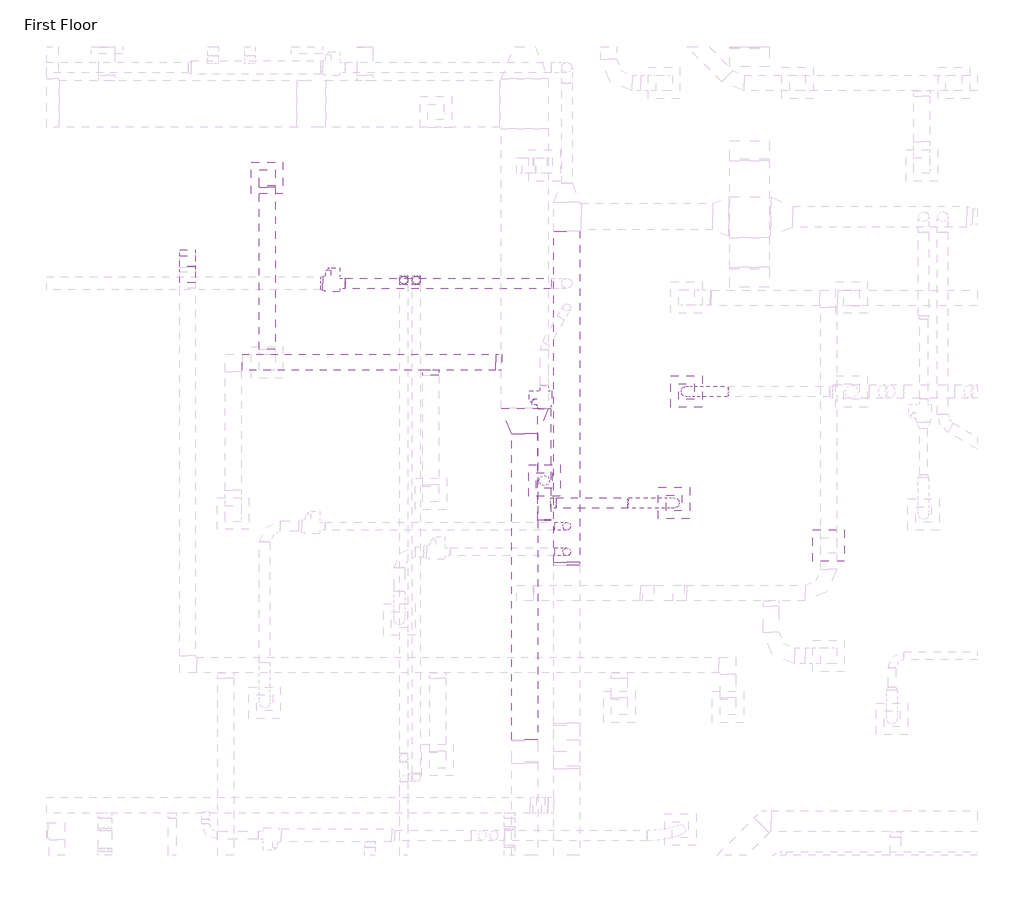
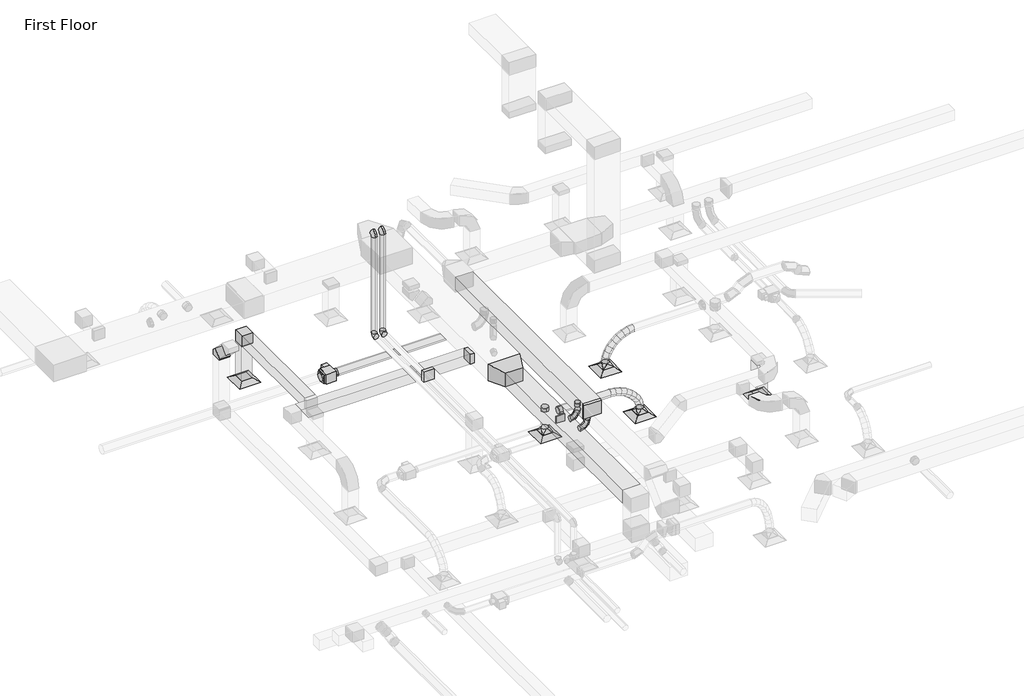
# One storey, part 11 of 61: 17 duct fittings, 15 duct segments, 5 air terminals, 4 pipe fittings, 2 pipe segments, 2 proxies.
"""IFC4 building model written with IfcOpenShell, lengths in millimetres."""

from ifc_helpers import new_model, si_unit, point, frame, frame_2d, origin, place, context, project, spatial, polyline, circle_curve, ellipse_curve, trimmed, segment, composite_curve, outline, extrude, transform, mapped, element, save
from ifc_brep_helpers import plane_surface, cylinder_surface, advanced_brep
from components import m_exhaust_grill_er_600_x_600_face_300_x_300_connection_ff221211, m_vav_unit_single_duct_150_mm_ffdab17b, m_vav_unit_single_duct_200_mm_f9143229, m_rectangular_elbow_mitered_standard_b81e202c, m_rectangular_elbow_mitered_standard_8eee5933, m_rectangular_endcap_standard_ecd4e432, m_rectangular_takeoff_standard_b44bfa45, m_rectangular_transition_angle_45_degree_2558483f, m_rectangular_transition_angle_45_degree_58188504, m_rectangular_to_round_transition_angle_45_degree_60daae35, m_rectangular_to_round_transition_angle_45_degree_2367f443, m_round_elbow_1_5_d_b75b4c16, m_round_elbow_1_5_d_9f19952d, m_round_takeoff_standard_2721f8a4, m_round_takeoff_standard_45336e8a, m_round_takeoff_standard_5a05d64d, m_elbow_generic_standard_1652de39

model = new_model("IFC4")

# Units and contexts
model_context = context("Model", 3, world=origin())
ifc_project = project(units=[si_unit("LENGTHUNIT", "METRE", prefix="MILLI")], contexts=[model_context])

# Site, building, storey
site = spatial("IfcSite", under=ifc_project)
building = spatial("IfcBuilding", under=site)
storey = spatial("IfcBuildingStorey", under=building, Name="First Floor", Elevation=0.0)

# Air terminals
placement = place(None, origin())
m_exhaust_grill_er_600_x_600_face_300_x_300_connection_shape = m_exhaust_grill_er_600_x_600_face_300_x_300_connection_ff221211(model_context)
element("IfcAirTerminal", 1, ObjectType="M_Return Register : RR-600 x 600 Face 300 x 300 Connection", at=placement, inside=storey, context=model_context, shape_type="MappedRepresentation", body=[
    mapped(m_exhaust_grill_er_600_x_600_face_300_x_300_connection_shape, transform((-34075.733002, 16812.4492601, 2680.0), x_axis=(1.0, 0.0, 0.0), y_axis=(0.0, 1.0, 0.0), z_axis=(0.0, 0.0, 1.0))),
])
element("IfcAirTerminal", 2, ObjectType="M_Return Register : RR-600 x 600 Face 300 x 300 Connection", at=placement, inside=storey, context=model_context, shape_type="MappedRepresentation", body=[
    mapped(m_exhaust_grill_er_600_x_600_face_300_x_300_connection_shape, transform((-44776.2515849, 23819.5400233, 2680.0), x_axis=(1.0, 0.0, 0.0), y_axis=(0.0, 1.0, 0.0), z_axis=(0.0, 0.0, 1.0))),
])
element("IfcAirTerminal", 3, ObjectType="M_Supply Diffuser : SD-600 x 600 Face 300 x 300 Connection", at=placement, inside=storey, context=model_context, shape_type="MappedRepresentation", body=[
    mapped(m_exhaust_grill_er_600_x_600_face_300_x_300_connection_shape, transform((-36787.6727054, 19747.3013059, 2680.0), x_axis=(1.0, 0.0, 0.0), y_axis=(0.0, 1.0, 0.0), z_axis=(0.0, 0.0, 1.0))),
])
element("IfcAirTerminal", 4, ObjectType="M_Supply Diffuser : SD-600 x 600 Face 300 x 300 Connection", at=placement, inside=storey, context=model_context, shape_type="MappedRepresentation", body=[
    mapped(m_exhaust_grill_er_600_x_600_face_300_x_300_connection_shape, transform((-39495.2297098, 18050.338685, 2680.0), x_axis=(1.0, 0.0, 0.0), y_axis=(0.0, 1.0, 0.0), z_axis=(0.0, 0.0, 1.0))),
])
element("IfcAirTerminal", 5, ObjectType="M_Supply Diffuser : SD-600 x 600 Face 300 x 300 Connection", at=placement, inside=storey, context=model_context, shape_type="MappedRepresentation", body=[
    mapped(m_exhaust_grill_er_600_x_600_face_300_x_300_connection_shape, transform((-37023.6462171, 17624.6197406, 2680.0), x_axis=(1.0, 0.0, 0.0), y_axis=(0.0, 1.0, 0.0), z_axis=(0.0, 0.0, 1.0))),
])

# Proxies
m_vav_unit_single_duct_150_mm_shape = m_vav_unit_single_duct_150_mm_ffdab17b(model_context)
element("IfcBuildingElementProxy", 6, Name="M_VAV Unit - Single Duct : 150 mm", ObjectType="M_VAV Unit - Single Duct : 150 mm", at=placement, inside=storey, context=model_context, shape_type="MappedRepresentation", body=[
    mapped(m_vav_unit_single_duct_150_mm_shape, transform((-39495.2297098, 19765.5731757, 3499.975), x_axis=(0.0, -1.0000000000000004, 0.0), y_axis=(1.0000000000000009, 0.0, 0.0), z_axis=(0.0, 0.0, 1.0000000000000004))),
])
m_vav_unit_single_duct_200_mm_shape = m_vav_unit_single_duct_200_mm_f9143229(model_context)
element("IfcBuildingElementProxy", 7, Name="M_VAV Unit - Single Duct : 200 mm", ObjectType="M_VAV Unit - Single Duct : 200 mm", at=placement, inside=storey, context=model_context, shape_type="MappedRepresentation", body=[
    mapped(m_vav_unit_single_duct_200_mm_shape, transform((-43391.9384072, 21808.4183799, 3474.975), x_axis=(-1.0000000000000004, 0.0, 0.0), y_axis=(0.0, -1.0000000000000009, 0.0), z_axis=(0.0, 0.0, 1.0000000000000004))),
])

# Duct fittings
m_rectangular_elbow_mitered_standard_shape = m_rectangular_elbow_mitered_standard_b81e202c(model_context)
element("IfcDuctFitting", 8, ObjectType="M_Rectangular Elbow - Mitered : Standard", at=placement, inside=storey, context=model_context, shape_type="MappedRepresentation", body=[
    mapped(m_rectangular_elbow_mitered_standard_shape, transform((-46297.5612377, 22294.3952, 4953.8777982), x_axis=(0.0, 0.0, 1.0), y_axis=(0.0, -1.0, 0.0), z_axis=(1.0, 0.0, 0.0))),
])
m_rectangular_elbow_mitered_standard_2_shape = m_rectangular_elbow_mitered_standard_8eee5933(model_context)
element("IfcDuctFitting", 9, ObjectType="M_Rectangular Elbow - Mitered : Standard", at=placement, inside=storey, context=model_context, shape_type="MappedRepresentation", body=[
    mapped(m_rectangular_elbow_mitered_standard_2_shape, transform((-44776.2515849, 23819.5400233, 4000.0), x_axis=(0.0, 0.0, 1.0), y_axis=(0.0, -1.0, 0.0), z_axis=(1.0, 0.0, 0.0))),
])
m_rectangular_endcap_standard_shape = m_rectangular_endcap_standard_ecd4e432(model_context)
element("IfcDuctFitting", 10, ObjectType="M_Rectangular Endcap : Standard", at=placement, inside=storey, context=model_context, shape_type="MappedRepresentation", body=[
    mapped(m_rectangular_endcap_standard_shape, transform((-39495.2297098, 17307.538685, 3619.025), x_axis=(0.0, -1.0, 0.0), y_axis=(1.0, 0.0, 0.0), z_axis=(0.0, 0.0, 1.0))),
])
m_rectangular_takeoff_standard_shape = m_rectangular_takeoff_standard_b44bfa45(model_context)
element("IfcDuctFitting", 11, ObjectType="M_Rectangular Takeoff : Standard", at=placement, inside=storey, context=model_context, shape_type="MappedRepresentation", body=[
    mapped(m_rectangular_takeoff_standard_shape, transform((-41659.8030018, 20153.2476716, 4000.0), x_axis=(0.0, -1.0, 0.0), y_axis=(-1.0, 0.0, 0.0), z_axis=(0.0, 0.0, -1.0))),
])
element("IfcDuctFitting", 12, ObjectType="M_Rectangular Takeoff : Standard", at=placement, inside=storey, context=model_context, shape_type="MappedRepresentation", body=[
    mapped(m_rectangular_takeoff_standard_shape, transform((-40317.4195561, 20303.2476716, 4000.0), x_axis=(-1.0, 0.0, 0.0), y_axis=(0.0, 1.0, 0.0), z_axis=(0.0, 0.0, -1.0))),
])
m_rectangular_transition_angle_45_degree_shape = m_rectangular_transition_angle_45_degree_2558483f(model_context)
element("IfcDuctFitting", 13, ObjectType="M_Rectangular Transition - Angle : 45 Degree", at=placement, inside=storey, context=model_context, shape_type="MappedRepresentation", body=[
    mapped(m_rectangular_transition_angle_45_degree_shape, transform((-39067.4195561, 16494.8678176, 4259.5), x_axis=(0.0, -1.0, 0.0), y_axis=(1.0, 0.0, 0.0), z_axis=(0.0, 0.0, 1.0))),
])
m_rectangular_transition_angle_45_degree_2_shape = m_rectangular_transition_angle_45_degree_58188504(model_context)
element("IfcDuctFitting", 14, ObjectType="M_Rectangular Transition - Angle : 45 Degree", at=placement, inside=storey, context=model_context, shape_type="MappedRepresentation", body=[
    mapped(m_rectangular_transition_angle_45_degree_2_shape, transform((-39867.4195561, 19428.8199771, 4000.0), x_axis=(0.0, -1.0, 0.0), y_axis=(1.0, 0.0, 0.0), z_axis=(0.0, 0.0, 1.0))),
])
m_rectangular_to_round_transition_angle_45_degree_shape = m_rectangular_to_round_transition_angle_45_degree_60daae35(model_context)
element("IfcDuctFitting", 15, ObjectType="M_Rectangular to Round Transition - Angle : 45 Degree", at=placement, inside=storey, context=model_context, shape_type="MappedRepresentation", body=[
    mapped(m_rectangular_to_round_transition_angle_45_degree_shape, transform((-36787.6727054, 19747.3013059, 2781.6), x_axis=(0.0, 0.0, 1.0), y_axis=(1.0, 0.0, 0.0), z_axis=(0.0, 1.0, 0.0))),
])
element("IfcDuctFitting", 16, ObjectType="M_Rectangular to Round Transition - Angle : 45 Degree", at=placement, inside=storey, context=model_context, shape_type="MappedRepresentation", body=[
    mapped(m_rectangular_to_round_transition_angle_45_degree_shape, transform((-37023.6462171, 17624.6197406, 2781.6), x_axis=(0.0, 0.0, 1.0), y_axis=(1.0, 0.0, 0.0), z_axis=(0.0, 1.0, 0.0))),
])
element("IfcDuctFitting", 17, ObjectType="M_Rectangular to Round Transition - Angle : 45 Degree", at=placement, inside=storey, context=model_context, shape_type="MappedRepresentation", body=[
    mapped(m_rectangular_to_round_transition_angle_45_degree_shape, transform((-39495.2297098, 18050.338685, 2781.6), x_axis=(0.0, 0.0, 1.0), y_axis=(-1.0, 0.0, 0.0), z_axis=(0.0, -1.0, 0.0))),
])
m_rectangular_to_round_transition_angle_45_degree_2_shape = m_rectangular_to_round_transition_angle_45_degree_2367f443(model_context)
element("IfcDuctFitting", 18, ObjectType="M_Rectangular to Round Transition - Angle : 45 Degree", at=placement, inside=storey, context=model_context, shape_type="MappedRepresentation", body=[
    mapped(m_rectangular_to_round_transition_angle_45_degree_2_shape, transform((-43721.7384072, 21808.4183799, 3619.025), x_axis=(-1.0, 0.0, 0.0), y_axis=(0.0, -1.0, 0.0), z_axis=(0.0, 0.0, 1.0))),
])
m_round_elbow_1_5_d_shape = m_round_elbow_1_5_d_b75b4c16(model_context)
element("IfcDuctFitting", 19, ObjectType="M_Round Elbow : 1.5 D", at=placement, inside=storey, context=model_context, shape_type="MappedRepresentation", body=[
    mapped(m_round_elbow_1_5_d_shape, transform((-39067.4195561, 16691.8506721, 3609.5), x_axis=(0.0, 0.0, -1.0), y_axis=(-1.0, 0.0, 0.0), z_axis=(0.0, 1.0, 0.0))),
])
m_round_elbow_1_5_d_2_shape = m_round_elbow_1_5_d_9f19952d(model_context)
element("IfcDuctFitting", 20, ObjectType="M_Round Elbow : 1.5 D", at=placement, inside=storey, context=model_context, shape_type="MappedRepresentation", body=[
    mapped(m_round_elbow_1_5_d_2_shape, transform((-39067.4195561, 17179.1760628, 3609.5), x_axis=(0.0, 0.0, -1.0), y_axis=(-1.0, 0.0, 0.0), z_axis=(0.0, 1.0, 0.0))),
])
m_round_takeoff_standard_shape = m_round_takeoff_standard_2721f8a4(model_context)
element("IfcDuctFitting", 21, ObjectType="M_Round Takeoff : Standard", at=placement, inside=storey, context=model_context, shape_type="MappedRepresentation", body=[
    mapped(m_round_takeoff_standard_shape, transform((-39067.4195561, 16691.8506721, 4034.5), x_axis=(0.0, 0.0, -1.0), y_axis=(0.0, -1.0, 0.0), z_axis=(-1.0, 0.0, 0.0))),
])
element("IfcDuctFitting", 22, ObjectType="M_Round Takeoff : Standard", at=placement, inside=storey, context=model_context, shape_type="MappedRepresentation", body=[
    mapped(m_round_takeoff_standard_shape, transform((-39067.4195561, 17179.1760628, 4034.5), x_axis=(0.0, 0.0, -1.0), y_axis=(0.0, -1.0, 0.0), z_axis=(-1.0, 0.0, 0.0))),
])
m_round_takeoff_standard_2_shape = m_round_takeoff_standard_45336e8a(model_context)
element("IfcDuctFitting", 23, ObjectType="M_Round Takeoff : Standard", at=placement, inside=storey, context=model_context, shape_type="MappedRepresentation", body=[
    mapped(m_round_takeoff_standard_2_shape, transform((-39370.2297098, 17624.6197406, 3619.1), x_axis=(1.0, 0.0, 0.0), y_axis=(0.0, -1.0, 0.0), z_axis=(0.0, 0.0, -1.0))),
])
m_round_takeoff_standard_3_shape = m_round_takeoff_standard_5a05d64d(model_context)
element("IfcDuctFitting", 24, ObjectType="M_Round Takeoff : Standard", at=placement, inside=storey, context=model_context, shape_type="MappedRepresentation", body=[
    mapped(m_round_takeoff_standard_3_shape, transform((-39495.2297098, 18050.338685, 3519.1), x_axis=(0.0, 0.0, -1.0), y_axis=(1.0, 0.0, 0.0), z_axis=(0.0, -1.0, 0.0))),
])

# Duct segments
element("IfcDuctSegment", 25, ObjectType="Flex - Round", at=placement, inside=storey, context=model_context, shape_type="AdvancedBrep", body=[
    advanced_brep(
    [(-35997.5612377, 19647.3013059, 3644.1), (-35985.2655438, 19747.3013059, 3544.8587993), (-35997.5612377, 19847.3013059, 3644.1), (-36009.8569316, 19747.3013059, 3743.3412007), (-36135.2301962, 19647.3013059, 3627.0432196), (-36112.4082346, 19747.3013059, 3529.1061926), (-36135.2301962, 19847.3013059, 3627.0432196), (-36158.0521577, 19747.3013059, 3724.9802465), (-36787.6727054, 19647.3013059, 2902.3106781), (-36886.6917651, 19747.3013059, 2916.283001), (-36787.6727054, 19847.3013059, 2902.3106781), (-36688.6536457, 19747.3013059, 2888.3383552), (-36273.419372, 19647.3013059, 3578.9964909), (-36232.2699833, 19747.3013059, 3487.4316919), (-36273.419372, 19847.3013059, 3578.9964909), (-36314.5687608, 19747.3013059, 3670.56129), (-36406.3107958, 19647.3013059, 3504.6452333), (-36350.6048081, 19747.3013059, 3421.2246877), (-36406.3107958, 19847.3013059, 3504.6452333), (-36462.0167835, 19747.3013059, 3588.0657789), (-36528.0864982, 19647.3013059, 3408.6748657), (-36460.0910553, 19747.3013059, 3334.9395324), (-36528.0864982, 19847.3013059, 3408.6748657), (-36596.0819411, 19747.3013059, 3482.410199), (-36632.9285097, 19647.3013059, 3295.7708073), (-36553.9253628, 19747.3013059, 3233.8896386), (-36632.9285097, 19847.3013059, 3295.7708073), (-36711.9316567, 19747.3013059, 3357.6519759), (-36715.0188611, 19647.3013059, 3170.6184771), (-36625.9760401, 19747.3013059, 3124.043475), (-36715.0188611, 19847.3013059, 3170.6184771), (-36804.061682, 19747.3013059, 3217.1934793), (-36768.5395828, 19647.3013059, 3037.9032944), (-36671.2275888, 19747.3013059, 3011.8333373), (-36768.5395828, 19847.3013059, 3037.9032944), (-36865.8515767, 19747.3013059, 3063.9732515)],
    [
        (0, 1, circle_curve(frame((-35997.5612377, 19747.3013059, 3644.1), z_axis=(0.9924120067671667, 0.0, 0.12295693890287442), x_axis=(0.0, -1.0, 0.0)), 100.0)),
        (1, 2, circle_curve(frame((-35997.5612377, 19747.3013059, 3644.1), z_axis=(0.9924120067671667, 0.0, 0.12295693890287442), x_axis=(0.0, -1.0, 0.0)), 100.0)),
        (2, 3, circle_curve(frame((-35997.5612377, 19747.3013059, 3644.1), z_axis=(0.9924120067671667, 0.0, 0.12295693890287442), x_axis=(0.0, -1.0, 0.0)), 100.0)),
        (3, 0, circle_curve(frame((-35997.5612377, 19747.3013059, 3644.1), z_axis=(0.9924120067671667, 0.0, 0.12295693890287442), x_axis=(0.0, -1.0, 0.0)), 100.0)),
        (0, 4),
        (4, 5, ellipse_curve(frame((-36135.2301962, 19747.3013059, 3627.0432196), z_axis=(0.9739072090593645, 0.0, 0.22694657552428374), x_axis=(0.22694657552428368, 0.0, -0.9739072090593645)), 100.5609426, 100.0)),
        (5, 1),
        (5, 6, ellipse_curve(frame((-36135.2301962, 19747.3013059, 3627.0432196), z_axis=(0.9739072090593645, 0.0, 0.22694657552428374), x_axis=(0.22694657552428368, 0.0, -0.9739072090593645)), 100.5609426, 100.0)),
        (6, 2),
        (6, 7, ellipse_curve(frame((-36135.2301962, 19747.3013059, 3627.0432196), z_axis=(0.9739072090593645, 0.0, 0.22694657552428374), x_axis=(0.22694657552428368, 0.0, -0.9739072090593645)), 100.5609426, 100.0)),
        (7, 3),
        (7, 4, ellipse_curve(frame((-36135.2301962, 19747.3013059, 3627.0432196), z_axis=(0.9739072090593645, 0.0, 0.22694657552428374), x_axis=(0.22694657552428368, 0.0, -0.9739072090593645)), 100.5609426, 100.0)),
        (8, 9, circle_curve(frame((-36787.6727054, 19747.3013059, 2902.3106781), z_axis=(-0.1397232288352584, 0.0, -0.9901905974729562), x_axis=(0.0, -1.0, 0.0)), 100.0)),
        (9, 10, circle_curve(frame((-36787.6727054, 19747.3013059, 2902.3106781), z_axis=(-0.1397232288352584, 0.0, -0.9901905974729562), x_axis=(0.0, -1.0, 0.0)), 100.0)),
        (10, 11, circle_curve(frame((-36787.6727054, 19747.3013059, 2902.3106781), z_axis=(-0.1397232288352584, 0.0, -0.9901905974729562), x_axis=(0.0, -1.0, 0.0)), 100.0)),
        (11, 8, circle_curve(frame((-36787.6727054, 19747.3013059, 2902.3106781), z_axis=(-0.1397232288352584, 0.0, -0.9901905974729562), x_axis=(0.0, -1.0, 0.0)), 100.0)),
        (4, 12),
        (12, 13, ellipse_curve(frame((-36273.419372, 19747.3013059, 3578.9964909), z_axis=(0.9121255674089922, 0.0, 0.4099109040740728), x_axis=(0.4099109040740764, 0.0, -0.9121255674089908)), 100.3861775, 100.0)),
        (13, 5),
        (13, 14, ellipse_curve(frame((-36273.419372, 19747.3013059, 3578.9964909), z_axis=(0.9121255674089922, 0.0, 0.4099109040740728), x_axis=(0.4099109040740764, 0.0, -0.9121255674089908)), 100.3861775, 100.0)),
        (14, 6),
        (14, 15, ellipse_curve(frame((-36273.419372, 19747.3013059, 3578.9964909), z_axis=(0.9121255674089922, 0.0, 0.4099109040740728), x_axis=(0.4099109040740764, 0.0, -0.9121255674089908)), 100.3861775, 100.0)),
        (15, 7),
        (15, 12, ellipse_curve(frame((-36273.419372, 19747.3013059, 3578.9964909), z_axis=(0.9121255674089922, 0.0, 0.4099109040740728), x_axis=(0.4099109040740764, 0.0, -0.9121255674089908)), 100.3861775, 100.0)),
        (12, 16),
        (16, 17, ellipse_curve(frame((-36406.3107958, 19747.3013059, 3504.6452333), z_axis=(0.8316254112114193, 0.0, 0.5553369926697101), x_axis=(0.555336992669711, 0.0, -0.8316254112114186)), 100.3102412, 100.0)),
        (17, 13),
        (17, 18, ellipse_curve(frame((-36406.3107958, 19747.3013059, 3504.6452333), z_axis=(0.8316254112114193, 0.0, 0.5553369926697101), x_axis=(0.555336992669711, 0.0, -0.8316254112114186)), 100.3102412, 100.0)),
        (18, 14),
        (18, 19, ellipse_curve(frame((-36406.3107958, 19747.3013059, 3504.6452333), z_axis=(0.8316254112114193, 0.0, 0.5553369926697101), x_axis=(0.555336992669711, 0.0, -0.8316254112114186)), 100.3102412, 100.0)),
        (19, 15),
        (19, 16, ellipse_curve(frame((-36406.3107958, 19747.3013059, 3504.6452333), z_axis=(0.8316254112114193, 0.0, 0.5553369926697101), x_axis=(0.555336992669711, 0.0, -0.8316254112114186)), 100.3102412, 100.0)),
        (16, 20),
        (20, 21, ellipse_curve(frame((-36528.0864982, 19747.3013059, 3408.6748657), z_axis=(0.7351409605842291, 0.0, 0.6779142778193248), x_axis=(0.6779142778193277, 0.0, -0.7351409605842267)), 100.3009453, 100.0)),
        (21, 17),
        (21, 22, ellipse_curve(frame((-36528.0864982, 19747.3013059, 3408.6748657), z_axis=(0.7351409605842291, 0.0, 0.6779142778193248), x_axis=(0.6779142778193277, 0.0, -0.7351409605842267)), 100.3009453, 100.0)),
        (22, 18),
        (22, 23, ellipse_curve(frame((-36528.0864982, 19747.3013059, 3408.6748657), z_axis=(0.7351409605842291, 0.0, 0.6779142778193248), x_axis=(0.6779142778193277, 0.0, -0.7351409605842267)), 100.3009453, 100.0)),
        (23, 19),
        (23, 20, ellipse_curve(frame((-36528.0864982, 19747.3013059, 3408.6748657), z_axis=(0.7351409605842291, 0.0, 0.6779142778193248), x_axis=(0.6779142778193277, 0.0, -0.7351409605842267)), 100.3009453, 100.0)),
        (20, 24),
        (24, 25, ellipse_curve(frame((-36632.9285097, 19747.3013059, 3295.7708073), z_axis=(0.6166333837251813, 0.0, 0.7872504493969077), x_axis=(0.7872504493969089, 0.0, -0.6166333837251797)), 100.3532574, 100.0)),
        (25, 21),
        (25, 26, ellipse_curve(frame((-36632.9285097, 19747.3013059, 3295.7708073), z_axis=(0.6166333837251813, 0.0, 0.7872504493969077), x_axis=(0.7872504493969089, 0.0, -0.6166333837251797)), 100.3532574, 100.0)),
        (26, 22),
        (26, 27, ellipse_curve(frame((-36632.9285097, 19747.3013059, 3295.7708073), z_axis=(0.6166333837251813, 0.0, 0.7872504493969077), x_axis=(0.7872504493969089, 0.0, -0.6166333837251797)), 100.3532574, 100.0)),
        (27, 23),
        (27, 24, ellipse_curve(frame((-36632.9285097, 19747.3013059, 3295.7708073), z_axis=(0.6166333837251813, 0.0, 0.7872504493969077), x_axis=(0.7872504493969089, 0.0, -0.6166333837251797)), 100.3532574, 100.0)),
        (24, 28),
        (28, 29, ellipse_curve(frame((-36715.0188611, 19747.3013059, 3170.6184771), z_axis=(0.4634878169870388, 0.0, 0.8861032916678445), x_axis=(0.8861032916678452, 0.0, -0.4634878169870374)), 100.4880828, 100.0)),
        (29, 25),
        (29, 30, ellipse_curve(frame((-36715.0188611, 19747.3013059, 3170.6184771), z_axis=(0.4634878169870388, 0.0, 0.8861032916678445), x_axis=(0.8861032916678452, 0.0, -0.4634878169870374)), 100.4880828, 100.0)),
        (30, 26),
        (30, 31, ellipse_curve(frame((-36715.0188611, 19747.3013059, 3170.6184771), z_axis=(0.4634878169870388, 0.0, 0.8861032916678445), x_axis=(0.8861032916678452, 0.0, -0.4634878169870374)), 100.4880828, 100.0)),
        (31, 27),
        (31, 28, ellipse_curve(frame((-36715.0188611, 19747.3013059, 3170.6184771), z_axis=(0.4634878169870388, 0.0, 0.8861032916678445), x_axis=(0.8861032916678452, 0.0, -0.4634878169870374)), 100.4880828, 100.0)),
        (28, 32),
        (32, 33, ellipse_curve(frame((-36768.5395828, 19747.3013059, 3037.9032944), z_axis=(0.2587753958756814, 0.0, 0.965937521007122), x_axis=(0.9659375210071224, 0.0, -0.25877539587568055)), 100.7435697, 100.0)),
        (33, 29),
        (33, 34, ellipse_curve(frame((-36768.5395828, 19747.3013059, 3037.9032944), z_axis=(0.2587753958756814, 0.0, 0.965937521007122), x_axis=(0.9659375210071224, 0.0, -0.25877539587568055)), 100.7435697, 100.0)),
        (34, 30),
        (34, 35, ellipse_curve(frame((-36768.5395828, 19747.3013059, 3037.9032944), z_axis=(0.2587753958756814, 0.0, 0.965937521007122), x_axis=(0.9659375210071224, 0.0, -0.25877539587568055)), 100.7435697, 100.0)),
        (35, 31),
        (35, 32, ellipse_curve(frame((-36768.5395828, 19747.3013059, 3037.9032944), z_axis=(0.2587753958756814, 0.0, 0.965937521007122), x_axis=(0.9659375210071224, 0.0, -0.25877539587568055)), 100.7435697, 100.0)),
        (32, 8),
        (11, 33),
        (10, 34),
        (9, 35),
    ],
    [
        plane_surface(frame((-35997.5612377, 19847.3013059, 3644.1), z_axis=(0.9924120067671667, 0.0, 0.12295693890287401), x_axis=(0.12295693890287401, 0.0, -0.9924120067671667))),
        cylinder_surface(frame((-35997.5612377, 19747.3013059, 3644.1), z_axis=(0.9924120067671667, 0.0, 0.12295693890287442), x_axis=(0.0, -1.0, 0.0)), 100.0),
        plane_surface(frame((-36787.6727054, 19847.3013059, 2902.3106781), z_axis=(-0.1397232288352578, 0.0, -0.9901905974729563), x_axis=(0.9901905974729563, 0.0, -0.1397232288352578))),
        cylinder_surface(frame((-36135.2301962, 19747.3013059, 3627.0432196), z_axis=(0.9445372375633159, 0.0, 0.3284043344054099), x_axis=(0.0, -1.0, 0.0)), 100.0),
        cylinder_surface(frame((-36273.419372, 19747.3013059, 3578.9964909), z_axis=(0.8726961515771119, 0.0, 0.4882636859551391), x_axis=(0.0, -1.0, 0.0)), 100.0),
        cylinder_surface(frame((-36406.3107958, 19747.3013059, 3504.6452333), z_axis=(0.7854105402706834, 0.0, 0.6189751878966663), x_axis=(0.0, -1.0, 0.0)), 100.0),
        cylinder_surface(frame((-36528.0864982, 19747.3013059, 3408.6748657), z_axis=(0.6804599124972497, 0.0, 0.7327853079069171), x_axis=(0.0, -1.0, 0.0)), 100.0),
        cylinder_surface(frame((-36632.9285097, 19747.3013059, 3295.7708073), z_axis=(0.5484655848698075, 0.0, 0.8361731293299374), x_axis=(0.0, -1.0, 0.0)), 100.0),
        cylinder_surface(frame((-36715.0188611, 19747.3013059, 3170.6184771), z_axis=(0.37400761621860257, 0.0, 0.92742563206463), x_axis=(0.0, -1.0, 0.0)), 100.0),
        cylinder_surface(frame((-36768.5395828, 19747.3013059, 3037.9032944), z_axis=(0.1397232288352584, 0.0, 0.9901905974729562), x_axis=(0.0, -1.0, 0.0)), 100.0),
    ],
    [
        (0, [[1, 2, 3, 4]]),
        (1, [[-1, 5, 6, 7]]),
        (1, [[-2, -7, 8, 9]]),
        (1, [[-3, -9, 10, 11]]),
        (1, [[-4, -11, 12, -5]]),
        (2, [[13, 14, 15, 16]]),
        (3, [[-6, 17, 18, 19]]),
        (3, [[-8, -19, 20, 21]]),
        (3, [[-10, -21, 22, 23]]),
        (3, [[-12, -23, 24, -17]]),
        (4, [[-18, 25, 26, 27]]),
        (4, [[-20, -27, 28, 29]]),
        (4, [[-22, -29, 30, 31]]),
        (4, [[-24, -31, 32, -25]]),
        (5, [[-26, 33, 34, 35]]),
        (5, [[-28, -35, 36, 37]]),
        (5, [[-30, -37, 38, 39]]),
        (5, [[-32, -39, 40, -33]]),
        (6, [[-34, 41, 42, 43]]),
        (6, [[-36, -43, 44, 45]]),
        (6, [[-38, -45, 46, 47]]),
        (6, [[-40, -47, 48, -41]]),
        (7, [[-42, 49, 50, 51]]),
        (7, [[-44, -51, 52, 53]]),
        (7, [[-46, -53, 54, 55]]),
        (7, [[-48, -55, 56, -49]]),
        (8, [[-50, 57, 58, 59]]),
        (8, [[-52, -59, 60, 61]]),
        (8, [[-54, -61, 62, 63]]),
        (8, [[-56, -63, 64, -57]]),
        (9, [[-58, 65, -16, 66]]),
        (9, [[-60, -66, -15, 67]]),
        (9, [[-62, -67, -14, 68]]),
        (9, [[-64, -68, -13, -65]]),
    ],
),
])
element("IfcDuctSegment", 26, ObjectType="Flex - Round", at=placement, inside=storey, context=model_context, shape_type="AdvancedBrep", body=[
    advanced_brep(
    [(-37895.2297098, 17724.6197406, 3619.1), (-37905.7393166, 17624.6197406, 3519.6537926), (-37895.2297098, 17524.6197406, 3619.1), (-37884.7201029, 17624.6197406, 3718.5462074), (-37749.7807436, 17724.6197406, 3603.7287607), (-37769.2352292, 17624.6197406, 3505.2278599), (-37749.7807436, 17524.6197406, 3603.7287607), (-37730.3262581, 17624.6197406, 3702.2296614), (-37023.6462171, 17724.6197406, 2902.3106781), (-36924.8816925, 17624.6197406, 2917.9813091), (-37023.6462171, 17524.6197406, 2902.3106781), (-37122.4107417, 17624.6197406, 2886.6400472), (-37600.3536843, 17724.6197406, 3559.9987034), (-37635.8227985, 17624.6197406, 3466.1845081), (-37600.3536843, 17524.6197406, 3559.9987034), (-37564.8845701, 17624.6197406, 3653.8128986), (-37454.1520112, 17724.6197406, 3491.4853191), (-37503.1947225, 17624.6197406, 3404.032016), (-37454.1520112, 17524.6197406, 3491.4853191), (-37405.1092999, 17624.6197406, 3578.9386221), (-37318.3792037, 17724.6197406, 3401.7640988), (-37379.9333101, 17624.6197406, 3322.5785605), (-37318.3792037, 17524.6197406, 3401.7640988), (-37256.8250973, 17624.6197406, 3480.9496371), (-37200.2387411, 17724.6197406, 3294.4105336), (-37274.0926067, 17624.6197406, 3226.4017164), (-37200.2387411, 17524.6197406, 3294.4105336), (-37126.3848756, 17624.6197406, 3362.4193508), (-37106.9341029, 17724.6197406, 3173.0001144), (-37192.9661099, 17624.6197406, 3120.8378111), (-37106.9341029, 17524.6197406, 3173.0001144), (-37020.902096, 17624.6197406, 3225.1624176), (-37045.6687684, 17724.6197406, 3041.1083322), (-37142.244919, 17624.6197406, 3011.6454218), (-37045.6687684, 17524.6197406, 3041.1083322), (-36949.0926178, 17624.6197406, 3070.5712426)],
    [
        (0, 1, circle_curve(frame((-37895.2297098, 17624.6197406, 3619.1), z_axis=(-0.9944620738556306, 0.0, 0.10509606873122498), x_axis=(0.0, 1.0, 0.0)), 100.0)),
        (1, 2, circle_curve(frame((-37895.2297098, 17624.6197406, 3619.1), z_axis=(-0.9944620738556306, 0.0, 0.10509606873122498), x_axis=(0.0, 1.0, 0.0)), 100.0)),
        (2, 3, circle_curve(frame((-37895.2297098, 17624.6197406, 3619.1), z_axis=(-0.9944620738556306, 0.0, 0.10509606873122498), x_axis=(0.0, 1.0, 0.0)), 100.0)),
        (3, 0, circle_curve(frame((-37895.2297098, 17624.6197406, 3619.1), z_axis=(-0.9944620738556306, 0.0, 0.10509606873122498), x_axis=(0.0, 1.0, 0.0)), 100.0)),
        (0, 4),
        (4, 5, ellipse_curve(frame((-37749.7807436, 17624.6197406, 3603.7287607), z_axis=(-0.9810484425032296, 0.0, 0.19376262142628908), x_axis=(-0.19376262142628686, 0.0, -0.98104844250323)), 100.4037074, 100.0)),
        (5, 1),
        (5, 6, ellipse_curve(frame((-37749.7807436, 17624.6197406, 3603.7287607), z_axis=(-0.9810484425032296, 0.0, 0.19376262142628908), x_axis=(-0.19376262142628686, 0.0, -0.98104844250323)), 100.4037074, 100.0)),
        (6, 2),
        (6, 7, ellipse_curve(frame((-37749.7807436, 17624.6197406, 3603.7287607), z_axis=(-0.9810484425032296, 0.0, 0.19376262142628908), x_axis=(-0.19376262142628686, 0.0, -0.98104844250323)), 100.4037074, 100.0)),
        (7, 3),
        (7, 4, ellipse_curve(frame((-37749.7807436, 17624.6197406, 3603.7287607), z_axis=(-0.9810484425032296, 0.0, 0.19376262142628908), x_axis=(-0.19376262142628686, 0.0, -0.98104844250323)), 100.4037074, 100.0)),
        (8, 9, circle_curve(frame((-37023.6462171, 17624.6197406, 2902.3106781), z_axis=(0.15670630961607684, 0.0, -0.9876452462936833), x_axis=(0.0, 1.0, 0.0)), 100.0)),
        (9, 10, circle_curve(frame((-37023.6462171, 17624.6197406, 2902.3106781), z_axis=(0.15670630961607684, 0.0, -0.9876452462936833), x_axis=(0.0, 1.0, 0.0)), 100.0)),
        (10, 11, circle_curve(frame((-37023.6462171, 17624.6197406, 2902.3106781), z_axis=(0.15670630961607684, 0.0, -0.9876452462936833), x_axis=(0.0, 1.0, 0.0)), 100.0)),
        (11, 8, circle_curve(frame((-37023.6462171, 17624.6197406, 2902.3106781), z_axis=(0.15670630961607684, 0.0, -0.9876452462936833), x_axis=(0.0, 1.0, 0.0)), 100.0)),
        (4, 12),
        (12, 13, ellipse_curve(frame((-37600.3536843, 17624.6197406, 3559.9987034), z_axis=(-0.9353791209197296, 0.0, 0.35364657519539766), x_axis=(-0.3536465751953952, 0.0, -0.9353791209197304)), 100.2953702, 100.0)),
        (13, 5),
        (13, 14, ellipse_curve(frame((-37600.3536843, 17624.6197406, 3559.9987034), z_axis=(-0.9353791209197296, 0.0, 0.35364657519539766), x_axis=(-0.3536465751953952, 0.0, -0.9353791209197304)), 100.2953702, 100.0)),
        (14, 6),
        (14, 15, ellipse_curve(frame((-37600.3536843, 17624.6197406, 3559.9987034), z_axis=(-0.9353791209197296, 0.0, 0.35364657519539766), x_axis=(-0.3536465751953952, 0.0, -0.9353791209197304)), 100.2953702, 100.0)),
        (15, 7),
        (15, 12, ellipse_curve(frame((-37600.3536843, 17624.6197406, 3559.9987034), z_axis=(-0.9353791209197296, 0.0, 0.35364657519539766), x_axis=(-0.3536465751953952, 0.0, -0.9353791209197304)), 100.2953702, 100.0)),
        (12, 16),
        (16, 17, ellipse_curve(frame((-37454.1520112, 17624.6197406, 3491.4853191), z_axis=(-0.8722130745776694, 0.0, 0.4891261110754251), x_axis=(-0.4891261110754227, 0.0, -0.8722130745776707)), 100.265985, 100.0)),
        (17, 13),
        (17, 18, ellipse_curve(frame((-37454.1520112, 17624.6197406, 3491.4853191), z_axis=(-0.8722130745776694, 0.0, 0.4891261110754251), x_axis=(-0.4891261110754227, 0.0, -0.8722130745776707)), 100.265985, 100.0)),
        (18, 14),
        (18, 19, ellipse_curve(frame((-37454.1520112, 17624.6197406, 3491.4853191), z_axis=(-0.8722130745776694, 0.0, 0.4891261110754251), x_axis=(-0.4891261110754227, 0.0, -0.8722130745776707)), 100.265985, 100.0)),
        (19, 15),
        (19, 16, ellipse_curve(frame((-37454.1520112, 17624.6197406, 3491.4853191), z_axis=(-0.8722130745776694, 0.0, 0.4891261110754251), x_axis=(-0.4891261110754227, 0.0, -0.8722130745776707)), 100.265985, 100.0)),
        (16, 20),
        (20, 21, ellipse_curve(frame((-37318.3792037, 17624.6197406, 3401.7640988), z_axis=(-0.7895195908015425, 0.0, 0.6137253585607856), x_axis=(-0.613725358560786, 0.0, -0.7895195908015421)), 100.2958498, 100.0)),
        (21, 17),
        (21, 22, ellipse_curve(frame((-37318.3792037, 17624.6197406, 3401.7640988), z_axis=(-0.7895195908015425, 0.0, 0.6137253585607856), x_axis=(-0.613725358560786, 0.0, -0.7895195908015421)), 100.2958498, 100.0)),
        (22, 18),
        (22, 23, ellipse_curve(frame((-37318.3792037, 17624.6197406, 3401.7640988), z_axis=(-0.7895195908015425, 0.0, 0.6137253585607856), x_axis=(-0.613725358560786, 0.0, -0.7895195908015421)), 100.2958498, 100.0)),
        (23, 19),
        (23, 20, ellipse_curve(frame((-37318.3792037, 17624.6197406, 3401.7640988), z_axis=(-0.7895195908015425, 0.0, 0.6137253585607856), x_axis=(-0.613725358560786, 0.0, -0.7895195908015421)), 100.2958498, 100.0)),
        (20, 24),
        (24, 25, ellipse_curve(frame((-37200.2387411, 17624.6197406, 3294.4105336), z_axis=(-0.6773977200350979, 0.0, 0.7356169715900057), x_axis=(-0.7356169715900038, 0.0, -0.6773977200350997)), 100.3971746, 100.0)),
        (25, 21),
        (25, 26, ellipse_curve(frame((-37200.2387411, 17624.6197406, 3294.4105336), z_axis=(-0.6773977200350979, 0.0, 0.7356169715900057), x_axis=(-0.7356169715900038, 0.0, -0.6773977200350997)), 100.3971746, 100.0)),
        (26, 22),
        (26, 27, ellipse_curve(frame((-37200.2387411, 17624.6197406, 3294.4105336), z_axis=(-0.6773977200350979, 0.0, 0.7356169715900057), x_axis=(-0.7356169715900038, 0.0, -0.6773977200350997)), 100.3971746, 100.0)),
        (27, 23),
        (27, 24, ellipse_curve(frame((-37200.2387411, 17624.6197406, 3294.4105336), z_axis=(-0.6773977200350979, 0.0, 0.7356169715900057), x_axis=(-0.7356169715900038, 0.0, -0.6773977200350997)), 100.3971746, 100.0)),
        (24, 28),
        (28, 29, ellipse_curve(frame((-37106.9341029, 17624.6197406, 3173.0001144), z_axis=(-0.5184593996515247, 0.0, 0.8551022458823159), x_axis=(-0.8551022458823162, 0.0, -0.5184593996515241)), 100.6101988, 100.0)),
        (29, 25),
        (29, 30, ellipse_curve(frame((-37106.9341029, 17624.6197406, 3173.0001144), z_axis=(-0.5184593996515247, 0.0, 0.8551022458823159), x_axis=(-0.8551022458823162, 0.0, -0.5184593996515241)), 100.6101988, 100.0)),
        (30, 26),
        (30, 31, ellipse_curve(frame((-37106.9341029, 17624.6197406, 3173.0001144), z_axis=(-0.5184593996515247, 0.0, 0.8551022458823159), x_axis=(-0.8551022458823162, 0.0, -0.5184593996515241)), 100.6101988, 100.0)),
        (31, 27),
        (31, 28, ellipse_curve(frame((-37106.9341029, 17624.6197406, 3173.0001144), z_axis=(-0.5184593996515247, 0.0, 0.8551022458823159), x_axis=(-0.8551022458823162, 0.0, -0.5184593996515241)), 100.6101988, 100.0)),
        (28, 32),
        (32, 33, ellipse_curve(frame((-37045.6687684, 17624.6197406, 3041.1083322), z_axis=(-0.29179758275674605, 0.0, 0.9564800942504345), x_axis=(-0.9564800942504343, 0.0, -0.2917975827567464)), 100.9703717, 100.0)),
        (33, 29),
        (33, 34, ellipse_curve(frame((-37045.6687684, 17624.6197406, 3041.1083322), z_axis=(-0.29179758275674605, 0.0, 0.9564800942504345), x_axis=(-0.9564800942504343, 0.0, -0.2917975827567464)), 100.9703717, 100.0)),
        (34, 30),
        (34, 35, ellipse_curve(frame((-37045.6687684, 17624.6197406, 3041.1083322), z_axis=(-0.29179758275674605, 0.0, 0.9564800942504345), x_axis=(-0.9564800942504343, 0.0, -0.2917975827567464)), 100.9703717, 100.0)),
        (35, 31),
        (35, 32, ellipse_curve(frame((-37045.6687684, 17624.6197406, 3041.1083322), z_axis=(-0.29179758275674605, 0.0, 0.9564800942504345), x_axis=(-0.9564800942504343, 0.0, -0.2917975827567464)), 100.9703717, 100.0)),
        (32, 8),
        (11, 33),
        (10, 34),
        (9, 35),
    ],
    [
        plane_surface(frame((-37895.2297098, 17724.6197406, 3619.1), z_axis=(-0.9944620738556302, 0.0, 0.10509606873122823), x_axis=(0.10509606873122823, 0.0, 0.9944620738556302))),
        cylinder_surface(frame((-37895.2297098, 17624.6197406, 3619.1), z_axis=(-0.9944620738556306, 0.0, 0.10509606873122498), x_axis=(0.0, 1.0, 0.0)), 100.0),
        plane_surface(frame((-37023.6462171, 17724.6197406, 2902.3106781), z_axis=(0.15670630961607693, 0.0, -0.9876452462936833), x_axis=(0.9876452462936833, 0.0, 0.15670630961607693))),
        cylinder_surface(frame((-37749.7807436, 17624.6197406, 3603.7287607), z_axis=(-0.9597455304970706, 0.0, 0.2808709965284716), x_axis=(0.0, 1.0, 0.0)), 100.0),
        cylinder_surface(frame((-37600.3536843, 17624.6197406, 3559.9987034), z_axis=(-0.9055033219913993, 0.0, 0.42433917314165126), x_axis=(0.0, 1.0, 0.0)), 100.0),
        cylinder_surface(frame((-37454.1520112, 17624.6197406, 3491.4853191), z_axis=(-0.8342952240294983, 0.0, 0.5513179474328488), x_axis=(0.0, 1.0, 0.0)), 100.0),
        cylinder_surface(frame((-37318.3792037, 17624.6197406, 3401.7640988), z_axis=(-0.740086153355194, 0.0, 0.6725120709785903), x_axis=(0.0, 1.0, 0.0)), 100.0),
        cylinder_surface(frame((-37200.2387411, 17624.6197406, 3294.4105336), z_axis=(-0.609349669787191, 0.0, 0.7929016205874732), x_axis=(0.0, 1.0, 0.0)), 100.0),
        cylinder_surface(frame((-37106.9341029, 17624.6197406, 3173.0001144), z_axis=(-0.42128023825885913, 0.0, 0.9069305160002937), x_axis=(0.0, 1.0, 0.0)), 100.0),
        cylinder_surface(frame((-37045.6687684, 17624.6197406, 3041.1083322), z_axis=(-0.15670630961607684, 0.0, 0.9876452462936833), x_axis=(0.0, 1.0, 0.0)), 100.0),
    ],
    [
        (0, [[1, 2, 3, 4]]),
        (1, [[-1, 5, 6, 7]]),
        (1, [[-2, -7, 8, 9]]),
        (1, [[-3, -9, 10, 11]]),
        (1, [[-4, -11, 12, -5]]),
        (2, [[13, 14, 15, 16]]),
        (3, [[-6, 17, 18, 19]]),
        (3, [[-8, -19, 20, 21]]),
        (3, [[-10, -21, 22, 23]]),
        (3, [[-12, -23, 24, -17]]),
        (4, [[-18, 25, 26, 27]]),
        (4, [[-20, -27, 28, 29]]),
        (4, [[-22, -29, 30, 31]]),
        (4, [[-24, -31, 32, -25]]),
        (5, [[-26, 33, 34, 35]]),
        (5, [[-28, -35, 36, 37]]),
        (5, [[-30, -37, 38, 39]]),
        (5, [[-32, -39, 40, -33]]),
        (6, [[-34, 41, 42, 43]]),
        (6, [[-36, -43, 44, 45]]),
        (6, [[-38, -45, 46, 47]]),
        (6, [[-40, -47, 48, -41]]),
        (7, [[-42, 49, 50, 51]]),
        (7, [[-44, -51, 52, 53]]),
        (7, [[-46, -53, 54, 55]]),
        (7, [[-48, -55, 56, -49]]),
        (8, [[-50, 57, 58, 59]]),
        (8, [[-52, -59, 60, 61]]),
        (8, [[-54, -61, 62, 63]]),
        (8, [[-56, -63, 64, -57]]),
        (9, [[-58, 65, -16, 66]]),
        (9, [[-60, -66, -15, 67]]),
        (9, [[-62, -67, -14, 68]]),
        (9, [[-64, -68, -13, -65]]),
    ],
),
])
element("IfcDuctSegment", 27, ObjectType="Mitered Elbows / Taps", at=placement, inside=storey, context=model_context, shape_type="SweptSolid", body=[
    extrude(outline(polyline([(-39617.4195561, 13113.1855307), (-40117.4195561, 13113.1855307), (-40117.4195561, 18945.9772647), (-39617.4195561, 18945.9772647), (-39617.4195561, 13113.1855307)])), frame((0.0, 0.0, 3800.0), z_axis=(0.0, 0.0, 1.0), x_axis=(1.0, 0.0, 0.0)), (0.0, 0.0, 1.0), 400.0),
])
element("IfcDuctSegment", 28, ObjectType="Mitered Elbows / Taps", at=placement, inside=storey, context=model_context, shape_type="SweptSolid", body=[
    extrude(outline(polyline([(-39620.2297098, 19422.7731757), (-39370.2297098, 19422.7731757), (-39370.2297098, 17307.538685), (-39620.2297098, 17307.538685), (-39620.2297098, 19422.7731757)])), frame((0.0, 0.0, 3519.025), z_axis=(0.0, 0.0, 1.0), x_axis=(1.0, 0.0, 0.0)), (0.0, 0.0, 1.0), 200.0),
])
element("IfcDuctSegment", 29, ObjectType="Mitered Elbows / Taps", at=placement, inside=storey, context=model_context, shape_type="SweptSolid", body=[
    extrude(outline(polyline([(-39317.4195561, 22805.5096581), (-38817.4195561, 22805.5096581), (-38817.4195561, 16494.8678176), (-39317.4195561, 16494.8678176), (-39317.4195561, 22805.5096581)])), frame((0.0, 0.0, 4034.5), z_axis=(0.0, 0.0, 1.0), x_axis=(1.0, 0.0, 0.0)), (0.0, 0.0, 1.0), 450.0),
])
element("IfcDuctSegment", 30, ObjectType="Mitered Elbows / Taps", at=placement, inside=storey, context=model_context, shape_type="SweptSolid", body=[
    extrude(outline(polyline([(-45250.1578689, 20153.2476716), (-45250.1578689, 20453.2476716), (-40417.4195561, 20453.2476716), (-40417.4195561, 20153.2476716), (-45250.1578689, 20153.2476716)])), frame((0.0, 0.0, 3850.0), z_axis=(0.0, 0.0, 1.0), x_axis=(1.0, 0.0, 0.0)), (0.0, 0.0, 1.0), 300.0),
])
element("IfcDuctSegment", 31, ObjectType="Mitered Elbows / Taps", at=placement, inside=storey, context=model_context, shape_type="SweptSolid", body=[
    extrude(outline(polyline([(-44626.2515849, 20553.2476716), (-44926.2515849, 20553.2476716), (-44926.2515849, 23644.5400233), (-44626.2515849, 23644.5400233), (-44626.2515849, 20553.2476716)])), frame((0.0, 0.0, 3850.0), z_axis=(0.0, 0.0, 1.0), x_axis=(1.0, 0.0, 0.0)), (0.0, 0.0, 1.0), 300.0),
])
element("IfcDuctSegment", 32, ObjectType="Mitered Elbows / Taps", at=placement, inside=storey, context=model_context, shape_type="SweptSolid", body=[
    extrude(outline(polyline([(-44626.2515849, 23669.5400233), (-44926.2515849, 23669.5400233), (-44926.2515849, 23969.5400233), (-44626.2515849, 23969.5400233), (-44626.2515849, 23669.5400233)])), frame((0.0, 0.0, 2781.6), z_axis=(0.0, 0.0, 1.0), x_axis=(1.0, 0.0, 0.0)), (0.0, 0.0, 1.0), 1043.4),
])
element("IfcDuctSegment", 33, ObjectType="Mitered Elbows / Taps", at=placement, inside=storey, context=model_context, shape_type="SweptSolid", body=[
    extrude(outline(polyline([(0.0, -300.0), (0.0, 0.0), (434.6089476, 0.0), (434.6089476, -300.0), (0.0, -300.0)])), frame((-46147.5612377, 22126.7175305, 4909.4234334), z_axis=(0.0, 0.7071067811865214, 0.7071067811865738), x_axis=(0.0, -0.7071067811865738, 0.7071067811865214)), (0.0, 0.0, 1.0), 300.0),
])
element("IfcDuctSegment", 34, ObjectType="Radius Elbows / Taps", at=placement, inside=storey, context=model_context, shape_type="SweptSolid", body=[
    extrude(outline(polyline([(-33925.733002, 16662.4492601), (-34225.733002, 16662.4492601), (-34225.733002, 16962.4492601), (-33925.733002, 16962.4492601), (-33925.733002, 16662.4492601)])), frame((0.0, 0.0, 2781.6), z_axis=(0.0, 0.0, 1.0), x_axis=(1.0, 0.0, 0.0)), (0.0, 0.0, 1.0), 968.4),
])
element("IfcDuctSegment", 35, ObjectType="Taps", at=placement, inside=storey, context=model_context, shape_type="SweptSolid", body=[
    extrude(outline(composite_curve([segment(trimmed(circle_curve(frame_2d((17624.6197406, 3619.1)), 100.0), [point((17524.6197406, 3619.1))], [point((17624.6197406, 3719.1))], False, "CARTESIAN"), True, "CONTINUOUS"), segment(trimmed(circle_curve(frame_2d((17624.6197406, 3619.1)), 100.0), [point((17624.6197406, 3719.1))], [point((17724.6197406, 3619.1))], False, "CARTESIAN"), True, "CONTINUOUS"), segment(trimmed(circle_curve(frame_2d((17624.6197406, 3619.1)), 100.0), [point((17724.6197406, 3619.1))], [point((17624.6197406, 3519.1))], False, "CARTESIAN"), True, "CONTINUOUS"), segment(trimmed(circle_curve(frame_2d((17624.6197406, 3619.1)), 100.0), [point((17624.6197406, 3519.1))], [point((17524.6197406, 3619.1))], False, "CARTESIAN"), True, "CONTINUOUS")], self_intersect=False)), frame((-39270.2297098, 0.0, 0.0), z_axis=(1.0, 0.0, 0.0), x_axis=(0.0, 1.0, 0.0)), (0.0, 0.0, 1.0), 1375.0),
])
element("IfcDuctSegment", 36, ObjectType="Taps", at=placement, inside=storey, context=model_context, shape_type="SweptSolid", body=[
    extrude(outline(composite_curve([segment(trimmed(circle_curve(frame_2d((-39495.2297098, 18050.338685)), 100.0), [point((-39395.2297098, 18050.338685))], [point((-39495.2297098, 17950.338685))], False, "CARTESIAN"), True, "CONTINUOUS"), segment(trimmed(circle_curve(frame_2d((-39495.2297098, 18050.338685)), 100.0), [point((-39495.2297098, 17950.338685))], [point((-39595.2297098, 18050.338685))], False, "CARTESIAN"), True, "CONTINUOUS"), segment(trimmed(circle_curve(frame_2d((-39495.2297098, 18050.338685)), 100.0), [point((-39595.2297098, 18050.338685))], [point((-39495.2297098, 18150.338685))], False, "CARTESIAN"), True, "CONTINUOUS"), segment(trimmed(circle_curve(frame_2d((-39495.2297098, 18050.338685)), 100.0), [point((-39495.2297098, 18150.338685))], [point((-39395.2297098, 18050.338685))], False, "CARTESIAN"), True, "CONTINUOUS")], self_intersect=False)), frame((0.0, 0.0, 2902.3106781), z_axis=(0.0, 0.0, 1.0), x_axis=(1.0, 0.0, 0.0)), (0.0, 0.0, 1.0), 516.7143219),
])
element("IfcDuctSegment", 37, ObjectType="Taps", at=placement, inside=storey, context=model_context, shape_type="SweptSolid", body=[
    extrude(outline(composite_curve([segment(trimmed(circle_curve(frame_2d((-39067.4195561, 16691.8506721)), 75.0), [point((-39067.4195561, 16766.8506721))], [point((-38992.4195561, 16691.8506721))], False, "CARTESIAN"), True, "CONTINUOUS"), segment(trimmed(circle_curve(frame_2d((-39067.4195561, 16691.8506721)), 75.0), [point((-38992.4195561, 16691.8506721))], [point((-39067.4195561, 16616.8506721))], False, "CARTESIAN"), True, "CONTINUOUS"), segment(trimmed(circle_curve(frame_2d((-39067.4195561, 16691.8506721)), 75.0), [point((-39067.4195561, 16616.8506721))], [point((-39142.4195561, 16691.8506721))], False, "CARTESIAN"), True, "CONTINUOUS"), segment(trimmed(circle_curve(frame_2d((-39067.4195561, 16691.8506721)), 75.0), [point((-39142.4195561, 16691.8506721))], [point((-39067.4195561, 16766.8506721))], False, "CARTESIAN"), True, "CONTINUOUS")], self_intersect=False)), frame((0.0, 0.0, 3834.5025315), z_axis=(0.0, 0.0, 1.0), x_axis=(1.0, 0.0, 0.0)), (0.0, 0.0, 1.0), 99.9974685),
])
element("IfcDuctSegment", 38, ObjectType="Taps", at=placement, inside=storey, context=model_context, shape_type="SweptSolid", body=[
    extrude(outline(composite_curve([segment(trimmed(circle_curve(frame_2d((-39067.4195561, 17179.1760628)), 75.0), [point((-39067.4195561, 17254.1760628))], [point((-38992.4195561, 17179.1760628))], False, "CARTESIAN"), True, "CONTINUOUS"), segment(trimmed(circle_curve(frame_2d((-39067.4195561, 17179.1760628)), 75.0), [point((-38992.4195561, 17179.1760628))], [point((-39067.4195561, 17104.1760628))], False, "CARTESIAN"), True, "CONTINUOUS"), segment(trimmed(circle_curve(frame_2d((-39067.4195561, 17179.1760628)), 75.0), [point((-39067.4195561, 17104.1760628))], [point((-39142.4195561, 17179.1760628))], False, "CARTESIAN"), True, "CONTINUOUS"), segment(trimmed(circle_curve(frame_2d((-39067.4195561, 17179.1760628)), 75.0), [point((-39142.4195561, 17179.1760628))], [point((-39067.4195561, 17254.1760628))], False, "CARTESIAN"), True, "CONTINUOUS")], self_intersect=False)), frame((0.0, 0.0, 3834.5012219), z_axis=(0.0, 0.0, 1.0), x_axis=(1.0, 0.0, 0.0)), (0.0, 0.0, 1.0), 99.9987781),
])
element("IfcDuctSegment", 39, ObjectType="Taps", at=placement, inside=storey, context=model_context, shape_type="SweptSolid", body=[
    extrude(outline(composite_curve([segment(trimmed(circle_curve(frame_2d((21807.7683799, 3609.5)), 100.0), [point((21707.7683799, 3609.5))], [point((21807.7683799, 3709.5))], False, "CARTESIAN"), True, "CONTINUOUS"), segment(trimmed(circle_curve(frame_2d((21807.7683799, 3609.5)), 100.0), [point((21807.7683799, 3709.5))], [point((21907.7683799, 3609.5))], False, "CARTESIAN"), True, "CONTINUOUS"), segment(trimmed(circle_curve(frame_2d((21807.7683799, 3609.5)), 100.0), [point((21907.7683799, 3609.5))], [point((21807.7683799, 3509.5))], False, "CARTESIAN"), True, "CONTINUOUS"), segment(trimmed(circle_curve(frame_2d((21807.7683799, 3609.5)), 100.0), [point((21807.7683799, 3509.5))], [point((21707.7683799, 3609.5))], False, "CARTESIAN"), True, "CONTINUOUS")], self_intersect=False)), frame((-43290.3384072, 0.0, 0.0), z_axis=(1.0, 0.0, 0.0), x_axis=(0.0, 1.0, 0.0)), (0.0, 0.0, 1.0), 3923.145725),
])

# Pipe fittings
m_elbow_generic_standard_shape = m_elbow_generic_standard_1652de39(model_context)
element("IfcPipeFitting", 40, ObjectType="M_Elbow - Generic : Standard", at=placement, inside=storey, context=model_context, shape_type="MappedRepresentation", body=[
    mapped(m_elbow_generic_standard_shape, transform((-42173.6892157, 21870.3362305, 4300.0), x_axis=(0.0, 1.0, 0.0), y_axis=(0.0, 0.0, 1.0), z_axis=(1.0, 0.0, 0.0))),
])
element("IfcPipeFitting", 41, ObjectType="M_Elbow - Generic : Standard", at=placement, inside=storey, context=model_context, shape_type="MappedRepresentation", body=[
    mapped(m_elbow_generic_standard_shape, transform((-42173.6892157, 21870.3362305, 7380.0), x_axis=(0.0, 0.0, 1.0), y_axis=(0.0, 1.0, 0.0), z_axis=(-1.0, 0.0, 0.0))),
])
element("IfcPipeFitting", 42, ObjectType="M_Elbow - Generic : Standard", at=placement, inside=storey, context=model_context, shape_type="MappedRepresentation", body=[
    mapped(m_elbow_generic_standard_shape, transform((-41933.6892157, 21869.0755539, 4300.0), x_axis=(0.0, 1.0, 0.0), y_axis=(0.0, 0.0, 1.0), z_axis=(1.0, 0.0, 0.0))),
])
element("IfcPipeFitting", 43, ObjectType="M_Elbow - Generic : Standard", at=placement, inside=storey, context=model_context, shape_type="MappedRepresentation", body=[
    mapped(m_elbow_generic_standard_shape, transform((-41933.6892157, 21869.0755539, 7380.0), x_axis=(0.0, 0.0, 1.0), y_axis=(0.0, 1.0, 0.0), z_axis=(-1.0, 0.0, 0.0))),
])

# Pipe segments
element("IfcPipeSegment", 44, ObjectType="Standard", at=placement, inside=storey, context=model_context, shape_type="SweptSolid", body=[
    extrude(outline(composite_curve([segment(trimmed(circle_curve(frame_2d((-42173.6892157, 21870.3362305)), 76.2), [point((-42249.8892157, 21870.3362305))], [point((-42173.6892157, 21946.5362305))], False, "CARTESIAN"), True, "CONTINUOUS"), segment(trimmed(circle_curve(frame_2d((-42173.6892157, 21870.3362305)), 76.2), [point((-42173.6892157, 21946.5362305))], [point((-42097.4892157, 21870.3362305))], False, "CARTESIAN"), True, "CONTINUOUS"), segment(trimmed(circle_curve(frame_2d((-42173.6892157, 21870.3362305)), 76.2), [point((-42097.4892157, 21870.3362305))], [point((-42173.6892157, 21794.1362305))], False, "CARTESIAN"), True, "CONTINUOUS"), segment(trimmed(circle_curve(frame_2d((-42173.6892157, 21870.3362305)), 76.2), [point((-42173.6892157, 21794.1362305))], [point((-42249.8892157, 21870.3362305))], False, "CARTESIAN"), True, "CONTINUOUS")], self_intersect=False)), frame((0.0, 0.0, 4384.1375), z_axis=(0.0, 0.0, 1.0), x_axis=(1.0, 0.0, 0.0)), (0.0, 0.0, 1.0), 2911.725),
])
element("IfcPipeSegment", 45, ObjectType="Standard", at=placement, inside=storey, context=model_context, shape_type="SweptSolid", body=[
    extrude(outline(composite_curve([segment(trimmed(circle_curve(frame_2d((-41933.6892157, 21869.0755539)), 76.2), [point((-42009.8892157, 21869.0755539))], [point((-41933.6892157, 21945.2755539))], False, "CARTESIAN"), True, "CONTINUOUS"), segment(trimmed(circle_curve(frame_2d((-41933.6892157, 21869.0755539)), 76.2), [point((-41933.6892157, 21945.2755539))], [point((-41857.4892157, 21869.0755539))], False, "CARTESIAN"), True, "CONTINUOUS"), segment(trimmed(circle_curve(frame_2d((-41933.6892157, 21869.0755539)), 76.2), [point((-41857.4892157, 21869.0755539))], [point((-41933.6892157, 21792.8755539))], False, "CARTESIAN"), True, "CONTINUOUS"), segment(trimmed(circle_curve(frame_2d((-41933.6892157, 21869.0755539)), 76.2), [point((-41933.6892157, 21792.8755539))], [point((-42009.8892157, 21869.0755539))], False, "CARTESIAN"), True, "CONTINUOUS")], self_intersect=False)), frame((0.0, 0.0, 4384.1375), z_axis=(0.0, 0.0, 1.0), x_axis=(1.0, 0.0, 0.0)), (0.0, 0.0, 1.0), 2911.725),
])

save(model, "model.ifc")
